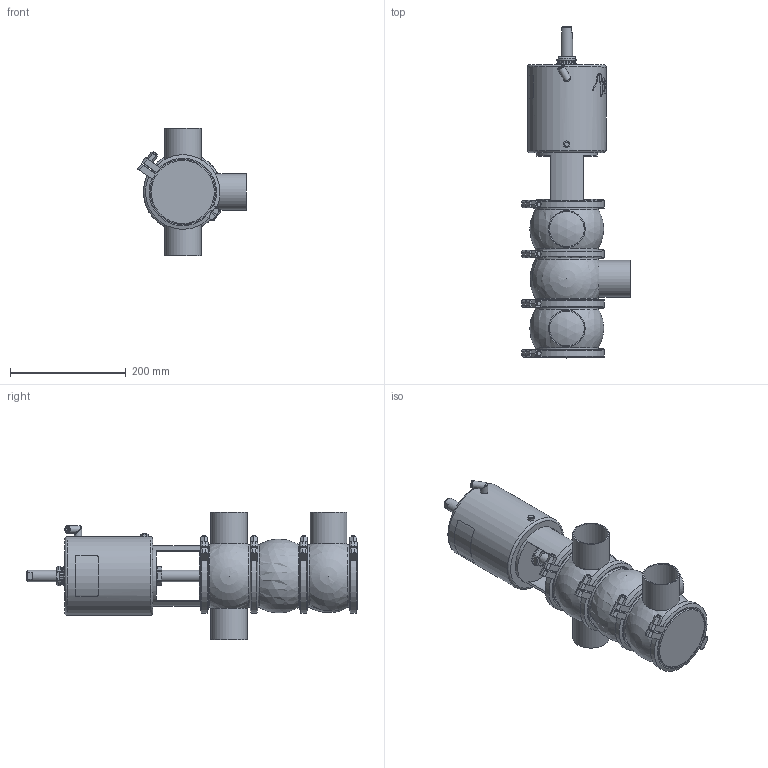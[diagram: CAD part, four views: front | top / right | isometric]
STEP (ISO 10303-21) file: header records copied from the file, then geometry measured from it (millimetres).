
FILE_DESCRIPTION (( 'STEP AP214' ), '1' );
FILE_NAME ('INNOVA L P W OD 2½ T3 AS NC_10.241.16.0016.STEP', '2024-08-07T07:42:30', ( '' ), ( '' ), 'SwSTEP 2.0', 'SolidWorks 2023', '' );
FILE_SCHEMA (( 'AUTOMOTIVE_DESIGN' ));
Length unit declared in the file: millimetre
Products named in the file (7): 10.240.15.0001_DN 065; 10.240.15.0007_OD 2½"; 10.240.15.0006_OD 2½"; 10.240.15.0014_T3 AS P180; 10.241.15.0001_DIN 065; 10.240.15.0010_DN 065; INNOVA L P W OD 2½ T3 AS NC_10.241.16.0016
Assembly tree (10 placements, depth 2):
  INNOVA L P W OD 2½ T3 AS NC_10.241.16.0016
    10.240.15.0007_OD 2½"
    10.240.15.0006_OD 2½"  x2
    10.240.15.0010_DN 065
    10.240.15.0014_T3 AS P180
    10.240.15.0001_DN 065  x4
    10.241.15.0001_DIN 065
Bounding box: 188.15 x 574.5 x 220 mm (x, y, z)
Volume: 5648173 mm3; surface area: 543321.4 mm2
Topology: 11 solids, 11 shells, 536 faces, 1408 edges, 917 vertices
Faces by surface type: plane 261, cylinder 138, bspline 80, cone 46, sphere 7, torus 4
Full cylindrical faces by diameter (mm): 6.15 x1, 8 x9, 8.5 x1, 10.5 x1, 12.5 x3, 16 x1, 20 x2, 31 x1, 34.5 x2, 36.5 x1, 60.2 x4, 63.5 x4, 105 x1, 109 x7, 121 x8, 136 x1
Entity records: 20751 total; most frequent: CARTESIAN_POINT 11322, ORIENTED_EDGE 1624, DIRECTION 1275, EDGE_CURVE 812, VERTEX_POINT 563, AXIS2_PLACEMENT_3D 493, EDGE_LOOP 431, FACE_OUTER_BOUND 386
